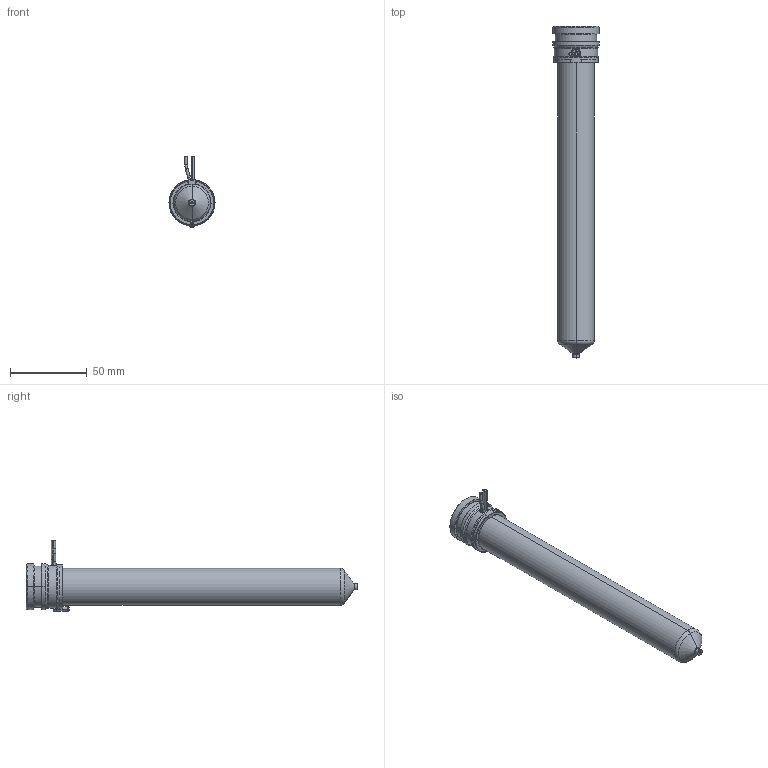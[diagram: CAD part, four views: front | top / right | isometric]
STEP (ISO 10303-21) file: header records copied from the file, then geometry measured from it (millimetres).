
FILE_DESCRIPTION((''),'2;1');
FILE_NAME('MPN-10-29-VP4-196-A','2026-02-05T12:43:41',('UPTIO'),('Thermoplay S.p.A.'),'CREO PARAMETRIC BY PTC INC, 2023494','CREO PARAMETRIC BY PTC INC, 2023494','');
FILE_SCHEMA(('CONFIG_CONTROL_DESIGN','SHAPE_APPEARANCE_LAYERS_GROUPS'));
Length unit declared in the file: millimetre
Products named in the file (1): MPN-10-29-VP4-196-A
Bounding box: 30 x 216.1 x 46 mm (x, y, z)
Volume: 66865.2 mm3; surface area: 68093.8 mm2
Topology: 2 solids, 3 shells, 580 faces, 1543 edges, 961 vertices
Faces by surface type: cylinder 180, plane 153, bspline 98, torus 70, cone 68, sphere 7, extrusion 4
Entity records: 32883 total; most frequent: CARTESIAN_POINT 15969, ORIENTED_EDGE 3074, DIRECTION 2691, EDGE_CURVE 1537, AXIS2_PLACEMENT_3D 1063, VERTEX_POINT 961, EDGE_LOOP 608, CIRCLE 584
